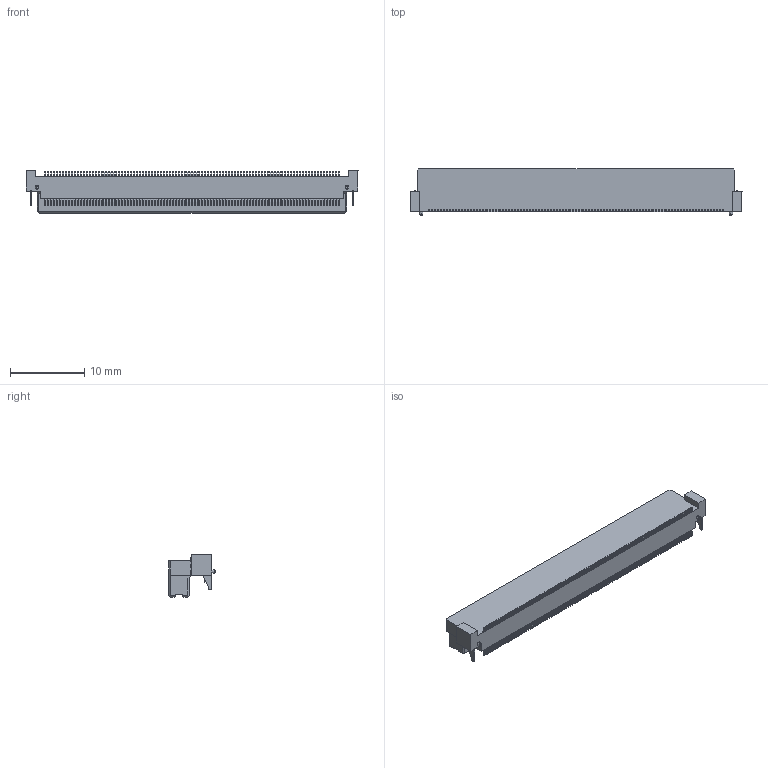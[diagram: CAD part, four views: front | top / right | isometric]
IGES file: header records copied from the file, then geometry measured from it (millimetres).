
Start section: Elysium IGES Interface
Global section: file name: C:\Users\1354\Desktop\DU11-200LB.igs; native system: CoCreate Modeling 17.0B  09-Oct-2010; preprocessor: CoCreate IGES_3D V2.2; author: Unknown; organization: Unknown; date: 20170908.134208; units: millimetre
Bounding box: 44.8 x 6.28 x 5.75 mm (x, y, z)
Volume: 737.7 mm3; surface area: 1475.8 mm2
Topology: 1 solids, 1 shells, 2917 faces, 7521 edges, 5014 vertices
Faces by surface type: bspline 2917
